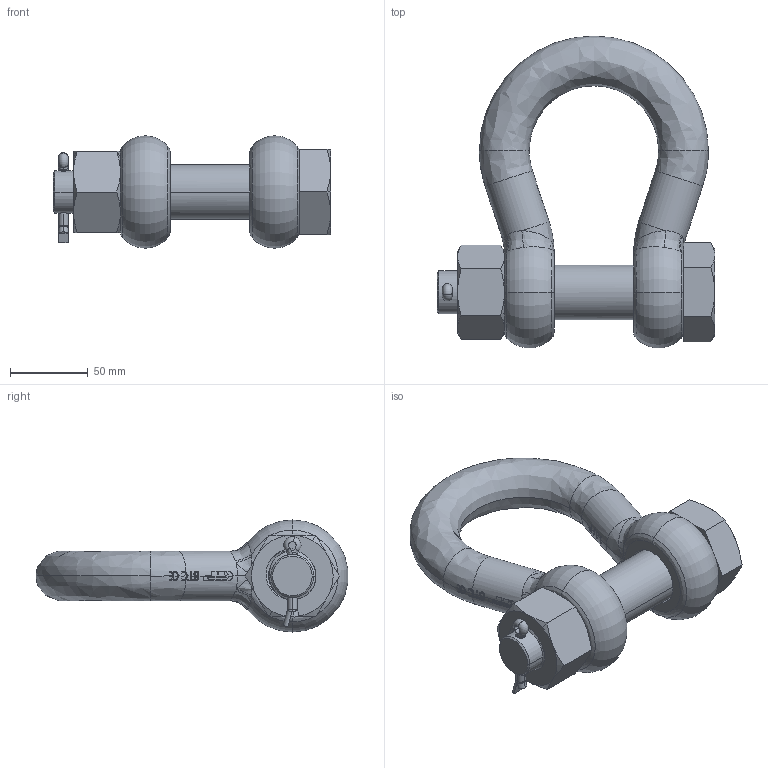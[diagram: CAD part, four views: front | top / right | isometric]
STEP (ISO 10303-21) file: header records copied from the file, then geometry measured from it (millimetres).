
FILE_DESCRIPTION (( 'STEP AP203' ), '1' );
FILE_NAME ('SUGHMB32.STEP', '2009-08-26T14:09:54', ( '.' ), ( '.' ), 'SwSTEP 2.0', 'SolidWorks 2009', '' );
FILE_SCHEMA (( 'CONFIG_CONTROL_DESIGN' ));
Length unit declared in the file: millimetre
Products named in the file (5): SUGHMB32; 18_3; 18; 18_1; 18_2
Assembly tree (4 placements, depth 2):
  SUGHMB32
    18_3
    18_1
    18_2
    18
Bounding box: 178 x 200.23 x 72 mm (x, y, z)
Volume: 641434.2 mm3; surface area: 101124.8 mm2
Topology: 4 solids, 4 shells, 799 faces, 2197 edges, 1428 vertices
Faces by surface type: plane 333, bspline 302, cylinder 126, cone 28, torus 10
Entity records: 41323 total; most frequent: CARTESIAN_POINT 23507, ORIENTED_EDGE 4378, DIRECTION 2407, EDGE_CURVE 2189, VERTEX_POINT 1428, VECTOR 1021, LINE 1021, EDGE_LOOP 837
